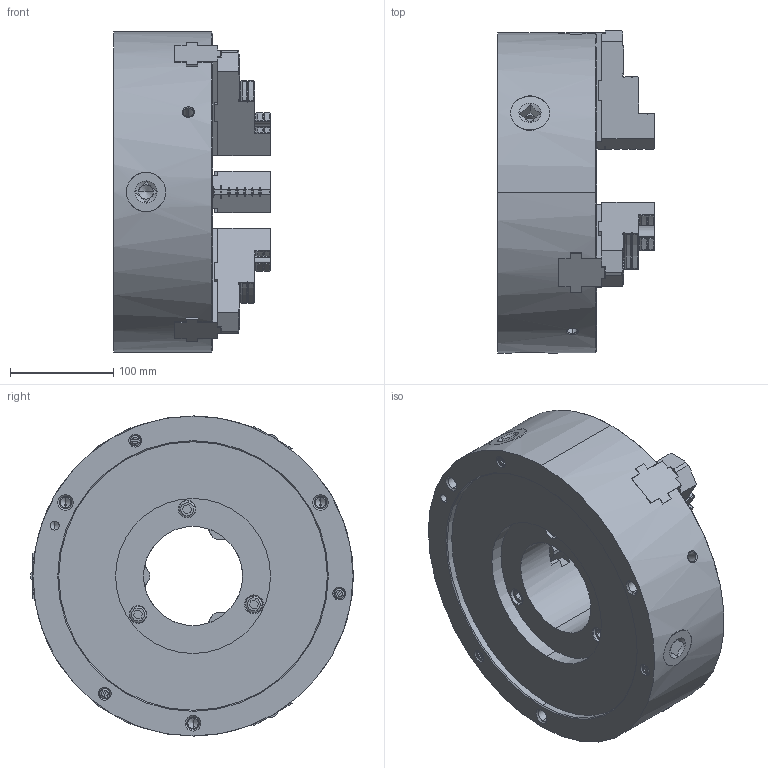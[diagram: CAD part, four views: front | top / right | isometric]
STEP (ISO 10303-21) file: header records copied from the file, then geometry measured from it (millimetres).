
FILE_DESCRIPTION (( 'STEP AP214' ), '1' );
FILE_NAME ('61S209922-9_JN12T-1.STEP', '2023-05-10T00:16:05', ( '' ), ( '' ), 'SwSTEP 2.0', 'SolidWorks 2020', '' );
FILE_SCHEMA (( 'AUTOMOTIVE_DESIGN' ));
Length unit declared in the file: millimetre
Products named in the file (2): 61S209922-9_JN12T-1; Part1^61S209922_JN12T_OUTSIDEVIEW
Assembly tree (1 placements, depth 2):
  61S209922-9_JN12T-1
    Part1^61S209922_JN12T_OUTSIDEVIEW
Bounding box: 152 x 312 x 310 mm (x, y, z)
Volume: 6513924.1 mm3; surface area: 355587.8 mm2
Topology: 1 solids, 4 shells, 1279 faces, 3471 edges, 2257 vertices
Faces by surface type: plane 691, cylinder 229, cone 185, bspline 133, torus 37, sphere 4
Entity records: 46229 total; most frequent: CARTESIAN_POINT 15096, ORIENTED_EDGE 6896, DIRECTION 5745, EDGE_CURVE 3448, VERTEX_POINT 2254, LINE 2119, VECTOR 2119, AXIS2_PLACEMENT_3D 1813
